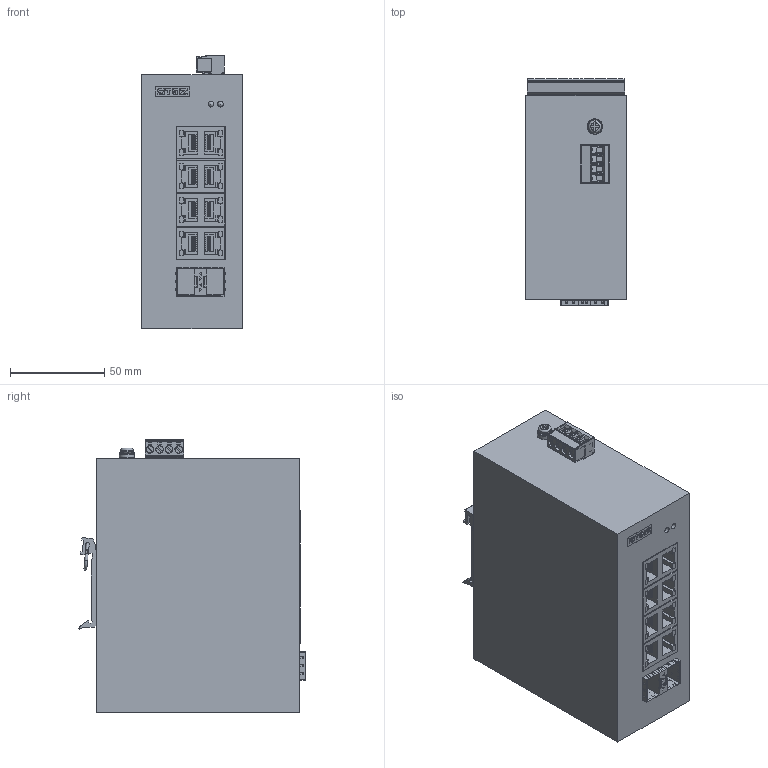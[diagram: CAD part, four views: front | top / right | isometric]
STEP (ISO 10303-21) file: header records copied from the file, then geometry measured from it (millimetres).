
FILE_DESCRIPTION(('TFLEX Exchange Step'),'2;1');
FILE_NAME('70310027_STEZ1008G-2GSFP.stp', '2025-08-26T14:05:57+03:00',('YLedovskikh'),('Unknown organisation'),'TFLEX Exchange 2023.2','T-FLEX CAD','Unknown authorisation');
FILE_SCHEMA( ('AUTOMOTIVE_DESIGN { 1 0 10303 214 1 1 1 1 }') );
Length unit declared in the file: millimetre
Products named in the file (1): 70310027_STEZ1008G-2GSFP:1
Bounding box: 53.6 x 120.15 x 145.3 mm (x, y, z)
Volume: 772138.3 mm3; surface area: 96973 mm2
Topology: 3 solids, 18 shells, 1750 faces, 5091 edges, 3409 vertices
Faces by surface type: plane 1245, cylinder 280, bspline 160, torus 24, extrusion 17, cone 16, sphere 8
Full cylindrical faces by diameter (mm): 1.02 x16, 1.3 x4, 1.5 x2, 3 x6, 3.1 x2, 3.25 x8, 3.821 x4, 4 x5, 4.4 x1, 5 x1, 6.8 x1, 8 x1
Entity records: 60790 total; most frequent: CARTESIAN_POINT 13971, ORIENTED_EDGE 10162, DIRECTION 8535, EDGE_CURVE 5081, VECTOR 3781, LINE 3764, VERTEX_POINT 3405, AXIS2_PLACEMENT_3D 2377
